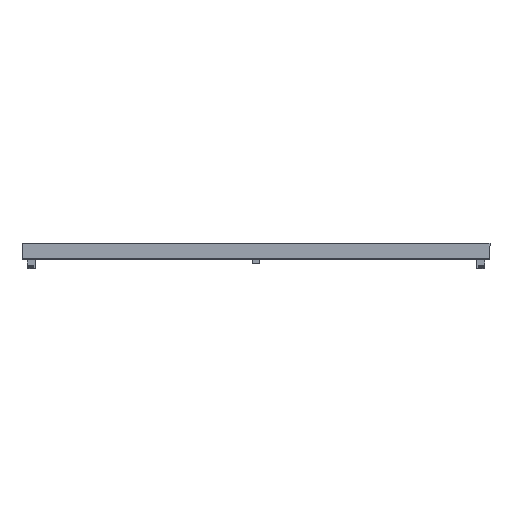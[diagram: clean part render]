
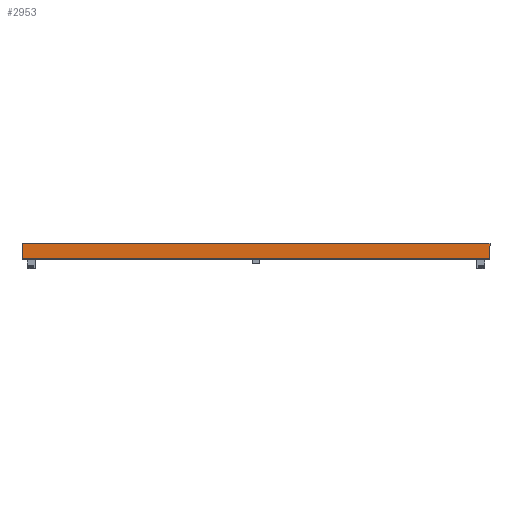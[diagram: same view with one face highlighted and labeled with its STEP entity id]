
A CAD part, left-side view. The second image highlights one B-rep face of the part: STEP entity #2953.
In plain terms, the highlighted planar face has unit normal (-1, 0, 0).
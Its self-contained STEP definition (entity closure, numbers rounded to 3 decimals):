
#32 = EDGE_CURVE ( 'NONE', #1322, #3352, #1036, .T. ) ;
#74 = DIRECTION ( 'NONE',  ( 0., 0., -1. ) ) ;
#511 = EDGE_CURVE ( 'NONE', #3399, #2838, #2973, .T. ) ;
#598 = CARTESIAN_POINT ( 'NONE',  ( -10., -19.6, -599.5 ) ) ;
#700 = AXIS2_PLACEMENT_3D ( 'NONE', #1167, #2173, #74 ) ;
#702 = LINE ( 'NONE', #770, #4180 ) ;
#770 = CARTESIAN_POINT ( 'NONE',  ( -10., -21., 599.5 ) ) ;
#1036 = LINE ( 'NONE', #2370, #1514 ) ;
#1051 = VECTOR ( 'NONE', #1934, 1000. ) ;
#1159 = CARTESIAN_POINT ( 'NONE',  ( -10., -21., -599.5 ) ) ;
#1162 = CARTESIAN_POINT ( 'NONE',  ( -10., -19.6, 599.5 ) ) ;
#1167 = CARTESIAN_POINT ( 'NONE',  ( -10., -21., 599.5 ) ) ;
#1175 = EDGE_CURVE ( 'NONE', #2838, #1322, #4003, .T. ) ;
#1322 = VERTEX_POINT ( 'NONE', #598 ) ;
#1514 = VECTOR ( 'NONE', #2723, 1000. ) ;
#1584 = ORIENTED_EDGE ( 'NONE', *, *, #1175, .T. ) ;
#1910 = PLANE ( 'NONE',  #700 ) ;
#1934 = DIRECTION ( 'NONE',  ( 0., 0., -1. ) ) ;
#2173 = DIRECTION ( 'NONE',  ( 1., 0., 0. ) ) ;
#2289 = DIRECTION ( 'NONE',  ( 0., -1., 0. ) ) ;
#2370 = CARTESIAN_POINT ( 'NONE',  ( -10., -19.6, 599.5 ) ) ;
#2723 = DIRECTION ( 'NONE',  ( 0., 0., 1. ) ) ;
#2820 = DIRECTION ( 'NONE',  ( 0., -1., 0. ) ) ;
#2838 = VERTEX_POINT ( 'NONE', #3156 ) ;
#2953 = ADVANCED_FACE ( 'NONE', ( #3245 ), #1910, .F. ) ;
#2973 = LINE ( 'NONE', #3720, #1051 ) ;
#3115 = VECTOR ( 'NONE', #2289, 1000. ) ;
#3156 = CARTESIAN_POINT ( 'NONE',  ( -10., 19.6, -599.5 ) ) ;
#3173 = ORIENTED_EDGE ( 'NONE', *, *, #32, .T. ) ;
#3245 = FACE_OUTER_BOUND ( 'NONE', #4216, .T. ) ;
#3352 = VERTEX_POINT ( 'NONE', #1162 ) ;
#3399 = VERTEX_POINT ( 'NONE', #4322 ) ;
#3647 = ORIENTED_EDGE ( 'NONE', *, *, #4165, .F. ) ;
#3720 = CARTESIAN_POINT ( 'NONE',  ( -10., 19.6, 599.5 ) ) ;
#4003 = LINE ( 'NONE', #1159, #3115 ) ;
#4144 = ORIENTED_EDGE ( 'NONE', *, *, #511, .T. ) ;
#4165 = EDGE_CURVE ( 'NONE', #3399, #3352, #702, .T. ) ;
#4180 = VECTOR ( 'NONE', #2820, 1000. ) ;
#4216 = EDGE_LOOP ( 'NONE', ( #1584, #3173, #3647, #4144 ) ) ;
#4322 = CARTESIAN_POINT ( 'NONE',  ( -10., 19.6, 599.5 ) ) ;
